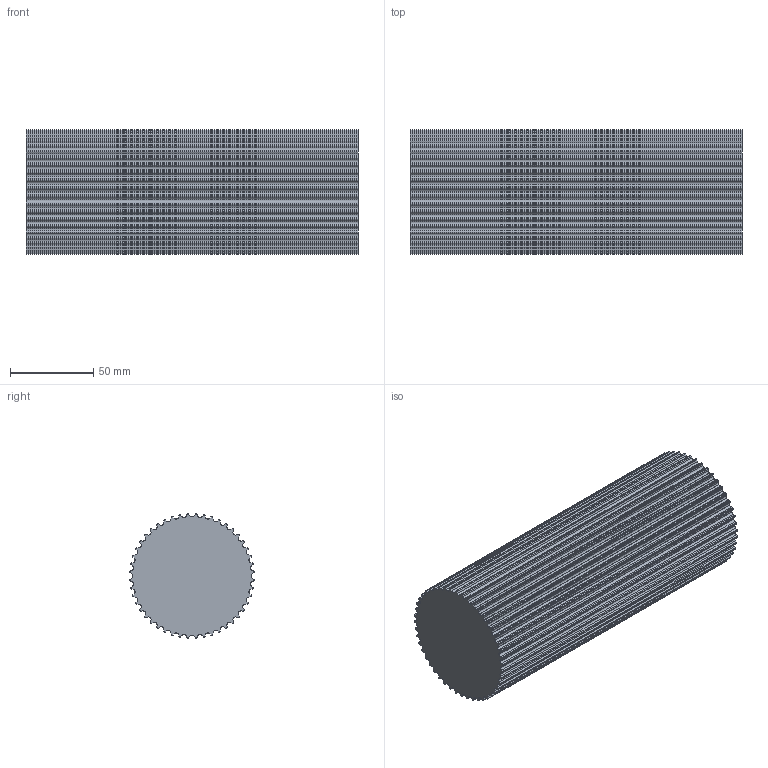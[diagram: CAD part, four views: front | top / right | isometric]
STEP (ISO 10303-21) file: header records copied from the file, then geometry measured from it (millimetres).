
FILE_DESCRIPTION( ( 'STEP AP214' ), '1' );
FILE_NAME( 'C:/Users/StangenbergN/Desktop/Steps Zahnriemenräder/K166_HTD-Zahnwellen/17294800.stp', '2019-06-06T09:42:22', ( '' ), ( '' ), ' ', 'PARTsolutions', ' ' );
FILE_SCHEMA( ( 'AUTOMOTIVE_DESIGN { 1 0 10303 214 1 1 1 1 }' ) );
Length unit declared in the file: millimetre
Products named in the file (1): _17294800
Bounding box: 200 x 75.11 x 75.11 mm (x, y, z)
Volume: 833887.9 mm3; surface area: 74323.5 mm2
Topology: 1 solids, 1 shells, 386 faces, 1152 edges, 768 vertices
Faces by surface type: cylinder 240, plane 146
Entity records: 16280 total; most frequent: DIRECTION 2406, CARTESIAN_POINT 2307, ORIENTED_EDGE 2304, EDGE_CURVE 1152, AXIS2_PLACEMENT_3D 867, VERTEX_POINT 768, LINE 672, VECTOR 672
